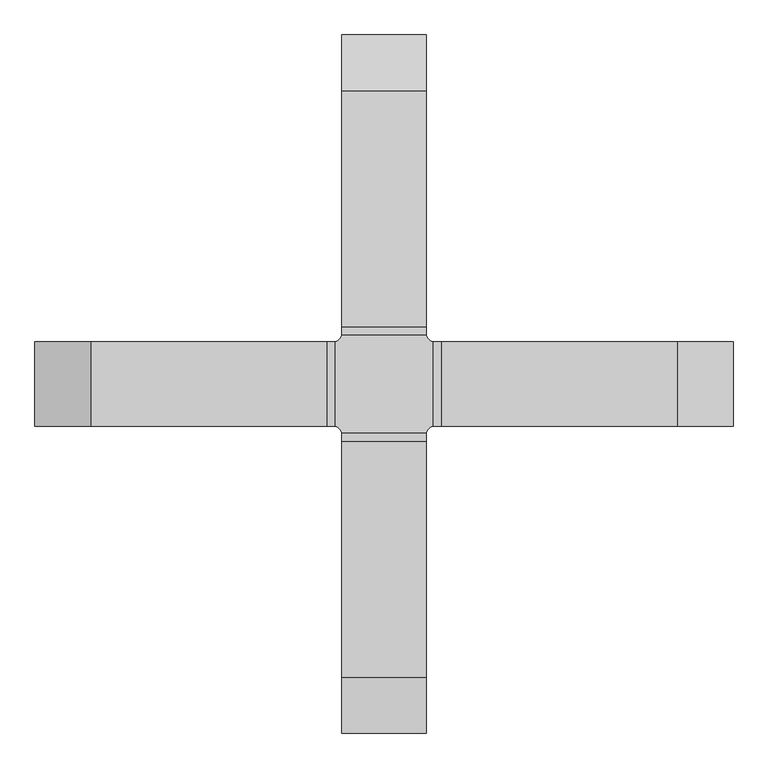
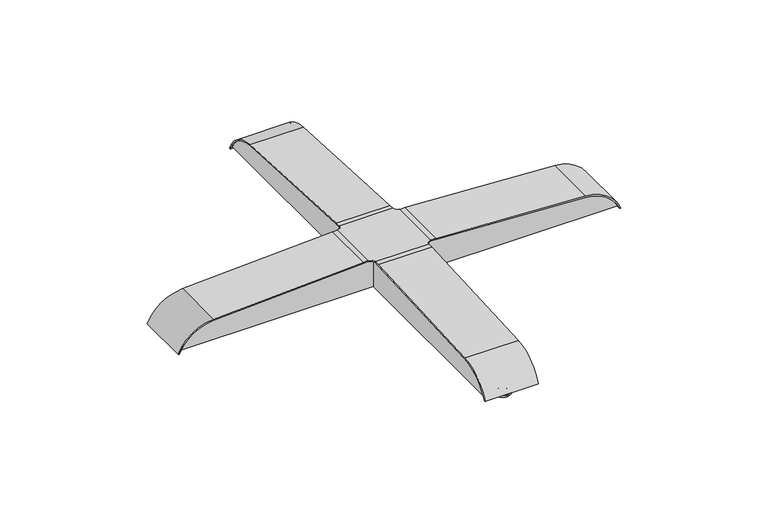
"""IFC4 building model written with IfcOpenShell, lengths in millimetres: furniture geometry, Stance_HC-Rise-Square_ Dining_Table : RTAH-4242-U."""

from ifc_helpers import new_model, si_unit, point, frame, origin, place, context, project, spatial, polyline, circle_curve, ellipse_curve, trimmed, source, transform, mapped, element, save
from ifc_brep_helpers import plane_surface, cylinder_surface, revolved_surface, advanced_brep


def furniture_16707d11(model_context):
    return source(origin(), model_context, "Body", "AdvancedBrep", [
        advanced_brep(
        [(0.0, -464.058, 39.7002), (0.0, -459.9345457, 39.7002), (0.0, -468.1814543, 39.7002), (0.0, -459.9345457, 14.7574), (0.0, -468.1814543, 14.7574), (0.0, -456.0189, 14.7574), (0.0, -472.0971, 14.7574), (0.0, -456.0189, 10.2849279), (0.0, -472.0971, 10.2849279), (0.0, -482.0101589, 3.5984853), (0.0, -446.1058411, 3.5984853), (0.0, -446.1058411, 0.0), (0.0, -482.0101589, 0.0), (0.0, -464.058, 0.0)],
        [
            (0, 1),
            (1, 2, circle_curve(frame((0.0, -464.058, 39.7002), z_axis=(0.0, 0.0, 1.0), x_axis=(0.0, 1.0, 0.0)), 4.1234543)),
            (2, 0),
            (2, 1, circle_curve(frame((0.0, -464.058, 39.7002), z_axis=(0.0, 0.0, 1.0), x_axis=(0.0, 1.0, 0.0)), 4.1234543)),
            (1, 3),
            (3, 4, circle_curve(frame((0.0, -464.058, 14.7574), z_axis=(0.0, 0.0, 1.0), x_axis=(0.0, 1.0, 0.0)), 4.1234543)),
            (4, 2),
            (4, 3, circle_curve(frame((0.0, -464.058, 14.7574), z_axis=(0.0, 0.0, 1.0), x_axis=(0.0, 1.0, 0.0)), 4.1234543)),
            (3, 5),
            (5, 6, circle_curve(frame((0.0, -464.058, 14.7574), z_axis=(0.0, 0.0, 1.0), x_axis=(0.0, 1.0, 0.0)), 8.0391)),
            (6, 4),
            (6, 5, circle_curve(frame((0.0, -464.058, 14.7574), z_axis=(0.0, 0.0, 1.0), x_axis=(0.0, 1.0, 0.0)), 8.0391)),
            (5, 7),
            (7, 8, circle_curve(frame((0.0, -464.058, 10.2849279), z_axis=(0.0, 0.0, 1.0), x_axis=(0.0, 1.0, 0.0)), 8.0391)),
            (8, 6),
            (8, 7, circle_curve(frame((0.0, -464.058, 10.2849279), z_axis=(0.0, 0.0, 1.0), x_axis=(0.0, 1.0, 0.0)), 8.0391)),
            (9, 10, circle_curve(frame((0.0, -464.058, 3.5984853), z_axis=(0.0, 0.0, -1.0), x_axis=(0.0, 1.0, 0.0)), 17.9521589)),
            (10, 11),
            (11, 12, circle_curve(frame((0.0, -464.058, 0.0), z_axis=(0.0, 0.0, 1.0), x_axis=(0.0, 1.0, 0.0)), 17.9521589)),
            (12, 9),
            (10, 9, circle_curve(frame((0.0, -464.058, 3.5984853), z_axis=(0.0, 0.0, -1.0), x_axis=(0.0, 1.0, 0.0)), 17.9521589)),
            (12, 11, circle_curve(frame((0.0, -464.058, 0.0), z_axis=(0.0, 0.0, 1.0), x_axis=(0.0, 1.0, 0.0)), 17.9521589)),
            (11, 13),
            (13, 12),
            (7, 10, circle_curve(frame((0.0, -446.538795, 13.6481832), z_axis=(1.0, 0.0, 0.0), x_axis=(0.0, 1.0, 0.0)), 10.0590197)),
            (9, 8, circle_curve(frame((0.0, -481.577205, 13.6481832), z_axis=(1.0, 0.0, 0.0), x_axis=(0.0, -1.0, 0.0)), 10.0590197)),
        ],
        [
            plane_surface(frame((0.0, -464.058, 39.7002), z_axis=(0.0, 0.0, 1.0), x_axis=(0.0, 1.0, 0.0))),
            cylinder_surface(frame((0.0, -464.058, 39.7002), z_axis=(0.0, 0.0, 1.0), x_axis=(0.0, 1.0, 0.0)), 4.1234543),
            plane_surface(frame((0.0, -464.058, 14.7574), z_axis=(0.0, 0.0, 1.0), x_axis=(0.0, 1.0, 0.0))),
            cylinder_surface(frame((0.0, -464.058, 39.7002), z_axis=(0.0, 0.0, 1.0), x_axis=(0.0, 1.0, 0.0)), 8.0391),
            cylinder_surface(frame((0.0, -464.058, 39.7002), z_axis=(0.0, 0.0, 1.0), x_axis=(0.0, 1.0, 0.0)), 17.9521589),
            plane_surface(frame((0.0, -464.058, 0.0), z_axis=(0.0, 0.0, -1.0), x_axis=(0.0, 1.0, 0.0))),
            revolved_surface(trimmed(ellipse_curve(frame((0.0, -446.538795, 13.6481832), z_axis=(-1.0, 0.0, 0.0), x_axis=(0.0, 1.0, 0.0)), 10.0590197, 10.0590197), [point((0.0, -446.1058411, 3.5984853))], [point((0.0, -456.0189, 10.2849279))], True, "CARTESIAN"), (0.0, -464.058, 39.7002), (0.0, 0.0, 1.0)),
        ],
        [
            (0, [[1, 2, 3]]),
            (0, [[-3, 4, -1]]),
            (1, [[-2, 5, 6, 7]]),
            (1, [[-4, -7, 8, -5]]),
            (2, [[-6, 9, 10, 11]]),
            (2, [[-8, -11, 12, -9]]),
            (3, [[-10, 13, 14, 15]]),
            (3, [[-12, -15, 16, -13]]),
            (4, [[17, 18, 19, 20]]),
            (4, [[21, -20, 22, -18]]),
            (5, [[-19, 23, 24]]),
            (5, [[-22, -24, -23]]),
            (6, [[-14, 25, -17, 26]]),
            (6, [[-16, -26, -21, -25]]),
        ],
    ),
        advanced_brep(
        [(0.0, 468.1814543, 39.7002), (0.0, 459.9345457, 39.7002), (0.0, 464.058, 39.7002), (0.0, 468.1814543, 14.7574), (0.0, 459.9345457, 14.7574), (0.0, 472.0971, 14.7574), (0.0, 456.0189, 14.7574), (0.0, 472.0971, 10.2849279), (0.0, 456.0189, 10.2849279), (0.0, 482.0101589, 0.0), (0.0, 446.1058411, 0.0), (0.0, 446.1058411, 3.5984853), (0.0, 482.0101589, 3.5984853), (0.0, 464.058, 0.0)],
        [
            (0, 1, circle_curve(frame((0.0, 464.058, 39.7002), z_axis=(0.0, 0.0, 1.0), x_axis=(0.0, -1.0, 0.0)), 4.1234543)),
            (1, 2),
            (2, 0),
            (1, 0, circle_curve(frame((0.0, 464.058, 39.7002), z_axis=(0.0, 0.0, 1.0), x_axis=(0.0, -1.0, 0.0)), 4.1234543)),
            (3, 4, circle_curve(frame((0.0, 464.058, 14.7574), z_axis=(0.0, 0.0, 1.0), x_axis=(0.0, -1.0, 0.0)), 4.1234543)),
            (4, 1),
            (0, 3),
            (4, 3, circle_curve(frame((0.0, 464.058, 14.7574), z_axis=(0.0, 0.0, 1.0), x_axis=(0.0, -1.0, 0.0)), 4.1234543)),
            (5, 6, circle_curve(frame((0.0, 464.058, 14.7574), z_axis=(0.0, 0.0, 1.0), x_axis=(0.0, -1.0, 0.0)), 8.0391)),
            (6, 4),
            (3, 5),
            (6, 5, circle_curve(frame((0.0, 464.058, 14.7574), z_axis=(0.0, 0.0, 1.0), x_axis=(0.0, -1.0, 0.0)), 8.0391)),
            (7, 8, circle_curve(frame((0.0, 464.058, 10.2849279), z_axis=(0.0, 0.0, 1.0), x_axis=(0.0, -1.0, 0.0)), 8.0391)),
            (8, 6),
            (5, 7),
            (8, 7, circle_curve(frame((0.0, 464.058, 10.2849279), z_axis=(0.0, 0.0, 1.0), x_axis=(0.0, -1.0, 0.0)), 8.0391)),
            (9, 10, circle_curve(frame((0.0, 464.058, 0.0), z_axis=(0.0, 0.0, 1.0), x_axis=(0.0, -1.0, 0.0)), 17.9521589)),
            (10, 11),
            (11, 12, circle_curve(frame((0.0, 464.058, 3.5984853), z_axis=(0.0, 0.0, -1.0), x_axis=(0.0, -1.0, 0.0)), 17.9521589)),
            (12, 9),
            (10, 9, circle_curve(frame((0.0, 464.058, 0.0), z_axis=(0.0, 0.0, 1.0), x_axis=(0.0, -1.0, 0.0)), 17.9521589)),
            (12, 11, circle_curve(frame((0.0, 464.058, 3.5984853), z_axis=(0.0, 0.0, -1.0), x_axis=(0.0, -1.0, 0.0)), 17.9521589)),
            (13, 10),
            (9, 13),
            (11, 8, circle_curve(frame((0.0, 446.538795, 13.6481832), z_axis=(1.0, 0.0, 0.0), x_axis=(0.0, -1.0, 0.0)), 10.0590197)),
            (7, 12, circle_curve(frame((0.0, 481.577205, 13.6481832), z_axis=(1.0, 0.0, 0.0), x_axis=(0.0, 1.0, 0.0)), 10.0590197)),
        ],
        [
            plane_surface(frame((0.0, 464.058, 39.7002), z_axis=(0.0, 0.0, 1.0), x_axis=(0.0, -1.0, 0.0))),
            cylinder_surface(frame((0.0, 464.058, 39.7002), z_axis=(0.0, 0.0, -1.0), x_axis=(0.0, -1.0, 0.0)), 4.1234543),
            plane_surface(frame((0.0, 464.058, 14.7574), z_axis=(0.0, 0.0, 1.0), x_axis=(0.0, -1.0, 0.0))),
            cylinder_surface(frame((0.0, 464.058, 39.7002), z_axis=(0.0, 0.0, -1.0), x_axis=(0.0, -1.0, 0.0)), 8.0391),
            cylinder_surface(frame((0.0, 464.058, 39.7002), z_axis=(0.0, 0.0, -1.0), x_axis=(0.0, -1.0, 0.0)), 17.9521589),
            plane_surface(frame((0.0, 464.058, 0.0), z_axis=(0.0, 0.0, -1.0), x_axis=(0.0, -1.0, 0.0))),
            revolved_surface(trimmed(ellipse_curve(frame((0.0, 446.538795, 13.6481832), z_axis=(-1.0, 0.0, 0.0), x_axis=(0.0, -1.0, 0.0)), 10.0590197, 10.0590197), [point((0.0, 456.0189, 10.2849279))], [point((0.0, 446.1058411, 3.5984853))], True, "CARTESIAN"), (0.0, 464.058, 39.7002), (0.0, 0.0, -1.0)),
        ],
        [
            (0, [[1, 2, 3]]),
            (0, [[4, -3, -2]]),
            (1, [[5, 6, -1, 7]]),
            (1, [[8, -7, -4, -6]]),
            (2, [[9, 10, -5, 11]]),
            (2, [[12, -11, -8, -10]]),
            (3, [[13, 14, -9, 15]]),
            (3, [[16, -15, -12, -14]]),
            (4, [[17, 18, 19, 20]]),
            (4, [[21, -20, 22, -18]]),
            (5, [[23, -17, 24]]),
            (5, [[-24, -21, -23]]),
            (6, [[-19, 25, -13, 26]]),
            (6, [[-22, -26, -16, -25]]),
        ],
    ),
        advanced_brep(
        [(60.325, 420.6378786, 74.5825817), (60.325, 498.1978983, 20.2927555), (60.325, 500.6635132, 21.3402677), (60.325, 420.7780817, 77.2578166), (60.325, 82.318215, 94.9957465), (60.325, 70.2140123, 95.3127062), (60.325, 70.2140123, 92.6338), (60.325, 82.1780119, 92.3205116), (60.325, -420.6378786, 74.5825817), (60.325, -82.1780119, 92.3205116), (60.325, -70.2140123, 92.6338), (60.325, -70.2140123, 95.3127062), (60.325, -82.318215, 94.9957465), (60.325, -420.7780817, 77.2578166), (60.325, -500.6635132, 21.3402677), (60.325, -498.1978983, 20.2927555), (-60.325, 420.6378786, 74.5825817), (-60.325, 82.1780119, 92.3205116), (-60.325, 70.2140123, 92.6338), (-60.325, 70.2140123, 95.3127062), (-60.325, 82.318215, 94.9957465), (-60.325, 420.7780817, 77.2578166), (-60.325, 500.6635132, 21.3402677), (-60.325, 498.1978983, 20.2927555), (-60.325, -420.6378786, 74.5825817), (-60.325, -498.1978983, 20.2927555), (-60.325, -500.6635132, 21.3402677), (-60.325, -420.7780817, 77.2578166), (-60.325, -82.318215, 94.9957465), (-60.325, -70.2140123, 95.3127062), (-60.325, -70.2140123, 92.6338), (-60.325, -82.1780119, 92.3205116), (-70.2648498, -60.6285662, 95.3127062), (-60.639995, -70.2140123, 95.3127062), (60.639995, -70.2140123, 95.3127062), (70.1631748, -60.6516433, 95.3127062), (70.1631748, -60.325, 95.3127062), (70.1631748, 60.325, 95.3127062), (70.1631748, 60.6516433, 95.3127062), (60.639995, 70.2140123, 95.3127062), (-60.639995, 70.2140123, 95.3127062), (-70.2648498, 60.6285662, 95.3127062), (-70.2648498, 60.325, 95.3127062), (-70.2648498, -60.325, 95.3127062), (-70.2648498, 60.6285662, 92.6338), (-60.639995, 70.2140123, 92.6338), (60.639995, 70.2140123, 92.6338), (70.1631748, 60.6516433, 92.6338), (70.1631748, 60.325, 92.6338), (70.1631748, -60.325, 92.6338), (70.1631748, -60.6516433, 92.6338), (60.639995, -70.2140123, 92.6338), (-60.639995, -70.2140123, 92.6338), (-70.2648498, -60.6285662, 92.6338), (-70.2648498, -60.325, 92.6338), (-70.2648498, 60.325, 92.6338), (-420.688716, 60.325, 74.5825817), (-498.2487358, 60.325, 20.2927555), (-500.7143507, 60.325, 21.3402677), (-420.8289192, 60.325, 77.2578166), (-82.3690525, 60.325, 94.9957465), (-82.2288494, 60.325, 92.3205116), (420.5870411, 60.325, 74.5825817), (82.1271744, 60.325, 92.3205116), (82.2673775, 60.325, 94.9957465), (420.7272442, 60.325, 77.2578166), (500.6126758, 60.325, 21.3402677), (498.1470609, 60.325, 20.2927555), (-420.688716, -60.325, 74.5825817), (-82.2288494, -60.325, 92.3205116), (-82.3690525, -60.325, 94.9957465), (-420.8289192, -60.325, 77.2578166), (-500.7143507, -60.325, 21.3402677), (-498.2487358, -60.325, 20.2927555), (420.5870411, -60.325, 74.5825817), (498.1470609, -60.325, 20.2927555), (500.6126758, -60.325, 21.3402677), (420.7272442, -60.325, 77.2578166), (82.2673775, -60.325, 94.9957465), (82.1271744, -60.325, 92.3205116)],
        [
            (0, 1, circle_curve(frame((60.325, 415.9616501, -14.6451736), z_axis=(-1.0, 0.0, 0.0), x_axis=(0.0, -1.0, 0.0)), 89.3502066)),
            (1, 2),
            (2, 3, circle_curve(frame((60.325, 415.9616501, -14.6451736), z_axis=(1.0, 0.0, 0.0), x_axis=(0.0, -1.0, 0.0)), 92.0291128)),
            (3, 4),
            (4, 5, circle_curve(frame((60.325, 70.2140123, -135.9662), z_axis=(1.0, 0.0, 0.0), x_axis=(0.0, -1.0, 0.0)), 231.2789063)),
            (5, 6),
            (6, 7, circle_curve(frame((60.325, 70.2140123, -135.9662), z_axis=(-1.0, 0.0, 0.0), x_axis=(0.0, -1.0, 0.0)), 228.6)),
            (7, 0),
            (8, 9),
            (9, 10, circle_curve(frame((60.325, -70.2140123, -135.9662), z_axis=(-1.0, 0.0, 0.0), x_axis=(0.0, 1.0, 0.0)), 228.6)),
            (10, 11),
            (11, 12, circle_curve(frame((60.325, -70.2140123, -135.9662), z_axis=(1.0, 0.0, 0.0), x_axis=(0.0, 1.0, 0.0)), 231.2789063)),
            (12, 13),
            (13, 14, circle_curve(frame((60.325, -415.9616501, -14.6451736), z_axis=(1.0, 0.0, 0.0), x_axis=(0.0, 1.0, 0.0)), 92.0291128)),
            (14, 15),
            (15, 8, circle_curve(frame((60.325, -415.9616501, -14.6451736), z_axis=(-1.0, 0.0, 0.0), x_axis=(0.0, 1.0, 0.0)), 89.3502066)),
            (16, 17),
            (17, 18, circle_curve(frame((-60.325, 70.2140123, -135.9662), z_axis=(1.0, 0.0, 0.0), x_axis=(0.0, -1.0, 0.0)), 228.6)),
            (18, 19),
            (19, 20, circle_curve(frame((-60.325, 70.2140123, -135.9662), z_axis=(-1.0, 0.0, 0.0), x_axis=(0.0, -1.0, 0.0)), 231.2789063)),
            (20, 21),
            (21, 22, circle_curve(frame((-60.325, 415.9616501, -14.6451736), z_axis=(-1.0, 0.0, 0.0), x_axis=(0.0, -1.0, 0.0)), 92.0291128)),
            (22, 23),
            (23, 16, circle_curve(frame((-60.325, 415.9616501, -14.6451736), z_axis=(1.0, 0.0, 0.0), x_axis=(0.0, -1.0, 0.0)), 89.3502066)),
            (24, 25, circle_curve(frame((-60.325, -415.9616501, -14.6451736), z_axis=(1.0, 0.0, 0.0), x_axis=(0.0, 1.0, 0.0)), 89.3502066)),
            (25, 26),
            (26, 27, circle_curve(frame((-60.325, -415.9616501, -14.6451736), z_axis=(-1.0, 0.0, 0.0), x_axis=(0.0, 1.0, 0.0)), 92.0291128)),
            (27, 28),
            (28, 29, circle_curve(frame((-60.325, -70.2140123, -135.9662), z_axis=(-1.0, 0.0, 0.0), x_axis=(0.0, 1.0, 0.0)), 231.2789063)),
            (29, 30),
            (30, 31, circle_curve(frame((-60.325, -70.2140123, -135.9662), z_axis=(1.0, 0.0, 0.0), x_axis=(0.0, 1.0, 0.0)), 228.6)),
            (31, 24),
            (7, 17),
            (16, 0),
            (23, 1),
            (22, 2),
            (32, 33, circle_curve(frame((-73.025, -73.025, 95.3127062), z_axis=(0.0, 0.0, -1.0), x_axis=(1.0, 0.0, 0.0)), 12.7)),
            (33, 29),
            (29, 11),
            (11, 34),
            (34, 35, circle_curve(frame((73.025, -73.025, 95.3127062), z_axis=(0.0, 0.0, -1.0), x_axis=(1.0, 0.0, 0.0)), 12.7)),
            (35, 36),
            (36, 37),
            (37, 38),
            (38, 39, circle_curve(frame((73.025, 73.025, 95.3127062), z_axis=(0.0, 0.0, -1.0), x_axis=(1.0, 0.0, 0.0)), 12.7)),
            (39, 5),
            (5, 19),
            (19, 40),
            (40, 41, circle_curve(frame((-73.025, 73.025, 95.3127062), z_axis=(0.0, 0.0, -1.0), x_axis=(1.0, 0.0, 0.0)), 12.7)),
            (41, 42),
            (42, 43),
            (43, 32),
            (44, 45, circle_curve(frame((-73.025, 73.025, 92.6338), z_axis=(0.0, 0.0, 1.0), x_axis=(1.0, 0.0, 0.0)), 12.7)),
            (45, 18),
            (18, 6),
            (6, 46),
            (46, 47, circle_curve(frame((73.025, 73.025, 92.6338), z_axis=(0.0, 0.0, 1.0), x_axis=(1.0, 0.0, 0.0)), 12.7)),
            (47, 48),
            (48, 49),
            (49, 50),
            (50, 51, circle_curve(frame((73.025, -73.025, 92.6338), z_axis=(0.0, 0.0, 1.0), x_axis=(1.0, 0.0, 0.0)), 12.7)),
            (51, 10),
            (10, 30),
            (30, 52),
            (52, 53, circle_curve(frame((-73.025, -73.025, 92.6338), z_axis=(0.0, 0.0, 1.0), x_axis=(1.0, 0.0, 0.0)), 12.7)),
            (53, 54),
            (54, 55),
            (55, 44),
            (32, 53),
            (52, 33),
            (34, 51),
            (50, 35),
            (38, 47),
            (46, 39),
            (40, 45),
            (44, 41),
            (21, 3),
            (20, 4),
            (8, 24),
            (31, 9),
            (28, 12),
            (27, 13),
            (26, 14),
            (25, 15),
            (43, 54),
            (55, 42),
            (49, 36),
            (37, 48),
            (56, 57, circle_curve(frame((-416.0124875, 60.325, -14.6451736), z_axis=(0.0, -1.0, 0.0), x_axis=(1.0, 0.0, 0.0)), 89.3502066)),
            (57, 58),
            (58, 59, circle_curve(frame((-416.0124875, 60.325, -14.6451736), z_axis=(0.0, 1.0, 0.0), x_axis=(1.0, 0.0, 0.0)), 92.0291128)),
            (59, 60),
            (60, 42, circle_curve(frame((-70.2648498, 60.325, -135.9662), z_axis=(0.0, 1.0, 0.0), x_axis=(1.0, 0.0, 0.0)), 231.2789063)),
            (55, 61, circle_curve(frame((-70.2648498, 60.325, -135.9662), z_axis=(0.0, -1.0, 0.0), x_axis=(1.0, 0.0, 0.0)), 228.6)),
            (61, 56),
            (62, 63),
            (63, 48, circle_curve(frame((70.1631748, 60.325, -135.9662), z_axis=(0.0, -1.0, 0.0), x_axis=(-1.0, 0.0, 0.0)), 228.6)),
            (37, 64, circle_curve(frame((70.1631748, 60.325, -135.9662), z_axis=(0.0, 1.0, 0.0), x_axis=(-1.0, 0.0, 0.0)), 231.2789063)),
            (64, 65),
            (65, 66, circle_curve(frame((415.9108126, 60.325, -14.6451736), z_axis=(0.0, 1.0, 0.0), x_axis=(-1.0, 0.0, 0.0)), 92.0291128)),
            (66, 67),
            (67, 62, circle_curve(frame((415.9108126, 60.325, -14.6451736), z_axis=(0.0, -1.0, 0.0), x_axis=(-1.0, 0.0, 0.0)), 89.3502066)),
            (68, 69),
            (69, 54, circle_curve(frame((-70.2648498, -60.325, -135.9662), z_axis=(0.0, 1.0, 0.0), x_axis=(1.0, 0.0, 0.0)), 228.6)),
            (43, 70, circle_curve(frame((-70.2648498, -60.325, -135.9662), z_axis=(0.0, -1.0, 0.0), x_axis=(1.0, 0.0, 0.0)), 231.2789063)),
            (70, 71),
            (71, 72, circle_curve(frame((-416.0124875, -60.325, -14.6451736), z_axis=(0.0, -1.0, 0.0), x_axis=(1.0, 0.0, 0.0)), 92.0291128)),
            (72, 73),
            (73, 68, circle_curve(frame((-416.0124875, -60.325, -14.6451736), z_axis=(0.0, 1.0, 0.0), x_axis=(1.0, 0.0, 0.0)), 89.3502066)),
            (74, 75, circle_curve(frame((415.9108126, -60.325, -14.6451736), z_axis=(0.0, 1.0, 0.0), x_axis=(-1.0, 0.0, 0.0)), 89.3502066)),
            (75, 76),
            (76, 77, circle_curve(frame((415.9108126, -60.325, -14.6451736), z_axis=(0.0, -1.0, 0.0), x_axis=(-1.0, 0.0, 0.0)), 92.0291128)),
            (77, 78),
            (78, 36, circle_curve(frame((70.1631748, -60.325, -135.9662), z_axis=(0.0, -1.0, 0.0), x_axis=(-1.0, 0.0, 0.0)), 231.2789063)),
            (49, 79, circle_curve(frame((70.1631748, -60.325, -135.9662), z_axis=(0.0, 1.0, 0.0), x_axis=(-1.0, 0.0, 0.0)), 228.6)),
            (79, 74),
            (56, 68),
            (73, 57),
            (72, 58),
            (71, 59),
            (70, 60),
            (69, 61),
            (62, 74),
            (79, 63),
            (78, 64),
            (77, 65),
            (76, 66),
            (75, 67),
        ],
        [
            plane_surface(frame((60.325, 326.6114435, -14.6451736), z_axis=(1.0, 0.0, 0.0), x_axis=(0.0, 0.0, 1.0))),
            plane_surface(frame((-60.325, 326.6114435, -14.6451736), z_axis=(-1.0, 0.0, 0.0), x_axis=(0.0, 0.0, -1.0))),
            plane_surface(frame((60.325, 82.1780119, 92.3205116), z_axis=(0.0, -0.05233595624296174, -0.998629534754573), x_axis=(-1.0, 0.0, 0.0))),
            revolved_surface(polyline([(-60.325, 326.61144349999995, -14.6451736), (60.325, 326.61144349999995, -14.6451736)]), (-60.325, 415.9616501, -14.6451736), (-1.0, 0.0, 0.0)),
            plane_surface(frame((60.325, 498.1978983, 20.2927555), z_axis=(0.0, 0.3910223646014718, -0.9203811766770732), x_axis=(-1.0, 0.0, 0.0))),
            plane_surface(frame((-70.2648498, -60.325, 95.3127062), z_axis=(0.0, 0.0, 1.0), x_axis=(0.0, -1.0, 0.0))),
            plane_surface(frame((-70.2648498, -60.325, 92.6338), z_axis=(0.0, 0.0, -1.0), x_axis=(0.0, 1.0, 0.0))),
            revolved_surface(polyline([(-60.325, -73.025, 92.6338), (-60.325, -73.025, 95.3127062)]), (-73.025, -73.025, 92.6338), (0.0, 0.0, -1.0)),
            revolved_surface(polyline([(85.72500000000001, -73.025, 92.6338), (85.72500000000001, -73.025, 95.3127062)]), (73.025, -73.025, 92.6338), (0.0, 0.0, -1.0)),
            revolved_surface(polyline([(85.72500000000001, 73.025, 92.6338), (85.72500000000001, 73.025, 95.3127062)]), (73.025, 73.025, 92.6338), (0.0, 0.0, -1.0)),
            revolved_surface(polyline([(-60.325, 73.025, 92.6338), (-60.325, 73.025, 95.3127062)]), (-73.025, 73.025, 92.6338), (0.0, 0.0, -1.0)),
            cylinder_surface(frame((-60.325, 415.9616501, -14.6451736), z_axis=(1.0, 0.0, 0.0), x_axis=(0.0, -1.0, 0.0)), 92.0291128),
            plane_surface(frame((60.325, 420.7780817, 77.2578166), z_axis=(0.0, 0.05233595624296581, 0.9986295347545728), x_axis=(-1.0, 0.0, 0.0))),
            cylinder_surface(frame((-60.325, 70.2140123, -135.9662), z_axis=(1.0, 0.0, 0.0), x_axis=(0.0, -1.0, 0.0)), 231.2789063),
            revolved_surface(polyline([(-60.325, -158.3859877, -135.9662), (60.325, -158.3859877, -135.9662)]), (-60.325, 70.2140123, -135.9662), (-1.0, 0.0, 0.0)),
            plane_surface(frame((60.325, -420.6378786, 74.5825817), z_axis=(0.0, 0.05233595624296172, -0.998629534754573), x_axis=(-1.0, 0.0, 0.0))),
            revolved_surface(polyline([(-60.325, 158.3859877, -135.9662), (60.325, 158.3859877, -135.9662)]), (0.0, -70.2140123, -135.9662), (-1.0, 0.0, 0.0)),
            cylinder_surface(frame((0.0, -70.2140123, -135.9662), z_axis=(1.0, 0.0, 0.0), x_axis=(0.0, 1.0, 0.0)), 231.2789063),
            plane_surface(frame((60.325, -82.318215, 94.9957465), z_axis=(0.0, -0.05233595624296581, 0.9986295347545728), x_axis=(-1.0, 0.0, 0.0))),
            cylinder_surface(frame((0.0, -415.9616501, -14.6451736), z_axis=(1.0, 0.0, 0.0), x_axis=(0.0, 1.0, 0.0)), 92.0291128),
            plane_surface(frame((60.325, -500.6635132, 21.3402677), z_axis=(0.0, -0.3910223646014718, -0.9203811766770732), x_axis=(-1.0, 0.0, 0.0))),
            revolved_surface(polyline([(-60.325, -326.61144349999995, -14.6451736), (60.325, -326.61144349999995, -14.6451736)]), (0.0, -415.9616501, -14.6451736), (-1.0, 0.0, 0.0)),
            plane_surface(frame((-70.2648498, 60.6285662, 95.3127062), z_axis=(-1.0, 0.0, 0.0), x_axis=(0.0, 0.0, -1.0))),
            plane_surface(frame((-60.639995, -70.2140123, 95.3127062), z_axis=(0.0, -1.0, 0.0), x_axis=(0.0, 0.0, -1.0))),
            plane_surface(frame((70.1631748, -60.6516433, 95.3127062), z_axis=(1.0, 0.0, 0.0), x_axis=(0.0, 0.0, -1.0))),
            plane_surface(frame((60.639995, 70.2140123, 95.3127062), z_axis=(0.0, 1.0, 0.0), x_axis=(0.0, 0.0, -1.0))),
            plane_surface(frame((-326.662281, 60.325, -14.6451736), z_axis=(0.0, 1.0, 0.0), x_axis=(0.0, 0.0, 1.0))),
            plane_surface(frame((-326.662281, -60.325, -14.6451736), z_axis=(0.0, -1.0, 0.0), x_axis=(0.0, 0.0, -1.0))),
            revolved_surface(polyline([(-326.66228090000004, -60.325, -14.6451736), (-326.66228090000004, 60.325, -14.6451736)]), (-416.0124875, -60.325, -14.6451736), (0.0, -1.0, 0.0)),
            plane_surface(frame((-498.2487358, 60.325, 20.2927555), z_axis=(-0.3910223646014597, 0.0, -0.9203811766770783), x_axis=(0.0, -1.0, 0.0))),
            cylinder_surface(frame((-416.0124875, -60.325, -14.6451736), z_axis=(0.0, 1.0, 0.0), x_axis=(1.0, 0.0, 0.0)), 92.0291128),
            plane_surface(frame((-420.8289192, 60.325, 77.2578166), z_axis=(-0.05233595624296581, 0.0, 0.9986295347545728), x_axis=(0.0, -1.0, 0.0))),
            cylinder_surface(frame((-70.2648498, -60.325, -135.9662), z_axis=(0.0, 1.0, 0.0), x_axis=(1.0, 0.0, 0.0)), 231.2789063),
            revolved_surface(polyline([(158.3351502, -60.325, -135.9662), (158.3351502, 60.325, -135.9662)]), (-70.2648498, -60.325, -135.9662), (0.0, -1.0, 0.0)),
            plane_surface(frame((-82.2288494, 60.325, 92.3205116), z_axis=(0.05233595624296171, 0.0, -0.998629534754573), x_axis=(0.0, -1.0, 0.0))),
            plane_surface(frame((420.5870411, 60.325, 74.5825817), z_axis=(-0.0523359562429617, 0.0, -0.998629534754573), x_axis=(0.0, -1.0, 0.0))),
            revolved_surface(polyline([(-158.4368252, -60.325, -135.9662), (-158.4368252, 60.325, -135.9662)]), (70.1631748, 0.0, -135.9662), (0.0, -1.0, 0.0)),
            cylinder_surface(frame((70.1631748, 0.0, -135.9662), z_axis=(0.0, 1.0, 0.0), x_axis=(-1.0, 0.0, 0.0)), 231.2789063),
            plane_surface(frame((82.2673775, 60.325, 94.9957465), z_axis=(0.05233595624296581, 0.0, 0.9986295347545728), x_axis=(0.0, -1.0, 0.0))),
            cylinder_surface(frame((415.9108126, 0.0, -14.6451736), z_axis=(0.0, 1.0, 0.0), x_axis=(-1.0, 0.0, 0.0)), 92.0291128),
            plane_surface(frame((500.6126758, 60.325, 21.3402677), z_axis=(0.3910223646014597, 0.0, -0.9203811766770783), x_axis=(0.0, -1.0, 0.0))),
            revolved_surface(polyline([(326.560606, -60.325, -14.6451736), (326.560606, 60.325, -14.6451736)]), (415.9108126, 0.0, -14.6451736), (0.0, -1.0, 0.0)),
        ],
        [
            (0, [[1, 2, 3, 4, 5, 6, 7, 8]]),
            (0, [[9, 10, 11, 12, 13, 14, 15, 16]]),
            (1, [[17, 18, 19, 20, 21, 22, 23, 24]]),
            (1, [[25, 26, 27, 28, 29, 30, 31, 32]]),
            (2, [[-8, 33, -17, 34]]),
            (3, [[-1, -34, -24, 35]]),
            (4, [[-2, -35, -23, 36]]),
            (5, [[37, 38, 39, 40, 41, 42, 43, 44, 45, 46, 47, 48, 49, 50, 51, 52]]),
            (6, [[53, 54, 55, 56, 57, 58, 59, 60, 61, 62, 63, 64, 65, 66, 67, 68]]),
            (7, [[-37, 69, -65, 70]]),
            (8, [[-41, 71, -61, 72]]),
            (9, [[-45, 73, -57, 74]]),
            (10, [[-49, 75, -53, 76]]),
            (11, [[-3, -36, -22, 77]]),
            (12, [[-4, -77, -21, 78]]),
            (13, [[-5, -78, -20, -47]]),
            (14, [[-7, -55, -18, -33]]),
            (15, [[-9, 79, -32, 80]]),
            (16, [[-10, -80, -31, -63]]),
            (17, [[-12, -39, -29, 81]]),
            (18, [[-13, -81, -28, 82]]),
            (19, [[-14, -82, -27, 83]]),
            (20, [[-15, -83, -26, 84]]),
            (21, [[-16, -84, -25, -79]]),
            (22, [[-69, -52, 85, -66]]),
            (22, [[-76, -68, 86, -50]]),
            (23, [[-70, -64, -30, -38]]),
            (23, [[-71, -40, -11, -62]]),
            (24, [[-72, -60, 87, -42]]),
            (24, [[-73, -44, 88, -58]]),
            (25, [[-74, -56, -6, -46]]),
            (25, [[-75, -48, -19, -54]]),
            (26, [[89, 90, 91, 92, 93, -86, 94, 95]]),
            (26, [[96, 97, -88, 98, 99, 100, 101, 102]]),
            (27, [[103, 104, -85, 105, 106, 107, 108, 109]]),
            (27, [[110, 111, 112, 113, 114, -87, 115, 116]]),
            (28, [[-89, 117, -109, 118]]),
            (29, [[-90, -118, -108, 119]]),
            (30, [[-91, -119, -107, 120]]),
            (31, [[-92, -120, -106, 121]]),
            (32, [[-93, -121, -105, -51]]),
            (33, [[-94, -67, -104, 122]]),
            (34, [[-95, -122, -103, -117]]),
            (35, [[-96, 123, -116, 124]]),
            (36, [[-97, -124, -115, -59]]),
            (37, [[-98, -43, -114, 125]]),
            (38, [[-99, -125, -113, 126]]),
            (39, [[-100, -126, -112, 127]]),
            (40, [[-101, -127, -111, 128]]),
            (41, [[-102, -128, -110, -123]]),
        ],
    ),
        advanced_brep(
        [(54.4710938, -493.593262, 28.6377062), (38.1, -493.593262, 28.6377062), (38.1, -493.593262, 25.9588), (57.15, -493.593262, 25.9588), (57.15, -493.593262, 29.590471), (54.4710938, -493.593262, 29.590471), (57.15, -57.15, 25.9588), (57.15, -57.15, 92.6338), (57.15, -70.2140123, 92.6338), (57.15, -82.1780119, 92.3205116), (57.15, -420.6378786, 74.5825817), (54.4710938, -54.4710937, 28.6377062), (54.4710938, -420.6378786, 74.5825817), (54.4710938, -82.1780119, 92.3205116), (54.4710938, -70.2140123, 92.6338), (54.4710938, -54.4710937, 92.6338), (493.6110748, -54.4710938, 28.6377062), (493.6110748, -38.1, 28.6377062), (38.1, -38.1, 28.6377062), (38.1, -38.1, 25.9588), (493.6110748, -38.1, 25.9588), (493.6110748, -57.15, 25.9588), (493.6110748, -54.4710938, 29.5591956), (493.6110748, -57.15, 29.5591956), (420.6378786, -57.15, 74.5825817), (82.1780119, -57.15, 92.3205116), (70.2140123, -57.15, 92.6338), (70.2140123, -54.4710937, 92.6338), (82.1780119, -54.4710937, 92.3205116), (420.6378786, -54.4710938, 74.5825817)],
        [
            (0, 1),
            (1, 2),
            (2, 3),
            (3, 4),
            (4, 5),
            (5, 0),
            (3, 6),
            (6, 7),
            (7, 8),
            (8, 9, circle_curve(frame((57.15, -70.2140123, -135.9662), z_axis=(1.0, 0.0, 0.0), x_axis=(0.0, 1.0, 0.0)), 228.6)),
            (9, 10),
            (10, 4, circle_curve(frame((57.15, -415.9616501, -14.6451736), z_axis=(1.0, 0.0, 0.0), x_axis=(0.0, 1.0, 0.0)), 89.3502066)),
            (11, 0),
            (5, 12, circle_curve(frame((54.4710938, -415.9616501, -14.6451736), z_axis=(-1.0, 0.0, 0.0), x_axis=(0.0, 1.0, 0.0)), 89.3502066)),
            (12, 13),
            (13, 14, circle_curve(frame((54.4710938, -70.2140123, -135.9662), z_axis=(-1.0, 0.0, 0.0), x_axis=(0.0, 1.0, 0.0)), 228.6)),
            (14, 15),
            (15, 11),
            (11, 16),
            (16, 17),
            (17, 18),
            (18, 1),
            (18, 19),
            (19, 2),
            (19, 20),
            (20, 21),
            (21, 6),
            (16, 22),
            (22, 23),
            (23, 21),
            (20, 17),
            (23, 24, circle_curve(frame((415.9616501, -57.15, -14.6451736), z_axis=(0.0, -1.0, 0.0), x_axis=(-1.0, 0.0, 0.0)), 89.3502066)),
            (24, 25),
            (25, 26, circle_curve(frame((70.2140123, -57.15, -135.9662), z_axis=(0.0, -1.0, 0.0), x_axis=(-1.0, 0.0, 0.0)), 228.6)),
            (26, 7),
            (15, 27),
            (27, 28, circle_curve(frame((70.2140123, -54.4710937, -135.9662), z_axis=(0.0, 1.0, 0.0), x_axis=(-1.0, 0.0, 0.0)), 228.6)),
            (28, 29),
            (29, 22, circle_curve(frame((415.9616501, -54.4710938, -14.6451736), z_axis=(0.0, 1.0, 0.0), x_axis=(-1.0, 0.0, 0.0)), 89.3502066)),
            (8, 14),
            (13, 9),
            (26, 27),
            (10, 12),
            (25, 28),
            (24, 29),
        ],
        [
            plane_surface(frame((57.15, -493.593262, 0.0), z_axis=(0.0, -1.0, 0.0), x_axis=(0.0, 0.0, 1.0))),
            plane_surface(frame((57.15, -493.593262, 25.9588), z_axis=(1.0, 0.0, 0.0), x_axis=(0.0, 1.0, 0.0))),
            plane_surface(frame((54.4710938, -493.593262, 95.01505), z_axis=(-1.0, 0.0, 0.0), x_axis=(0.0, 1.0, 0.0))),
            plane_surface(frame((54.4710938, -493.593262, 28.6377062), z_axis=(0.0, 0.0, 1.0), x_axis=(0.0, 1.0, 0.0))),
            plane_surface(frame((38.1, -493.593262, 28.6377062), z_axis=(-1.0, 0.0, 0.0), x_axis=(0.0, 1.0, 0.0))),
            plane_surface(frame((38.1, -493.593262, 25.9588), z_axis=(0.0, 0.0, -1.0), x_axis=(0.0, 1.0, 0.0))),
            plane_surface(frame((493.6110748, -57.15, 0.0), z_axis=(1.0, 0.0, 0.0), x_axis=(0.0, 0.0, 1.0))),
            plane_surface(frame((57.15, -57.15, 25.9588), z_axis=(0.0, -1.0, 0.0), x_axis=(1.0, 0.0, 0.0))),
            plane_surface(frame((54.4710938, -54.4710937, 95.01505), z_axis=(0.0, 1.0, 0.0), x_axis=(1.0, 0.0, 0.0))),
            plane_surface(frame((38.1, -38.1, 28.6377062), z_axis=(0.0, 1.0, 0.0), x_axis=(1.0, 0.0, 0.0))),
            cylinder_surface(frame((101.5819282, -70.2140123, -135.9662), z_axis=(1.0, 0.0, 0.0), x_axis=(0.0, 1.0, 0.0)), 228.6),
            plane_surface(frame((-95.25, 70.2140123, 92.6338), z_axis=(0.0, 0.0, 1.0), x_axis=(1.0, 0.0, 0.0))),
            cylinder_surface(frame((101.5819282, -415.9616501, -14.6451736), z_axis=(1.0, 0.0, 0.0), x_axis=(0.0, 1.0, 0.0)), 89.3502066),
            plane_surface(frame((-95.25, -82.1780119, 92.3205116), z_axis=(0.0, -0.052335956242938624, 0.9986295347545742), x_axis=(1.0, 0.0, 0.0))),
            cylinder_surface(frame((70.2140123, 101.5819282, -135.9662), z_axis=(0.0, 1.0, 0.0), x_axis=(-1.0, 0.0, 0.0)), 228.6),
            plane_surface(frame((82.1780119, -95.25, 92.3205116), z_axis=(0.05233595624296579, 0.0, 0.9986295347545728), x_axis=(0.0, 1.0, 0.0))),
            cylinder_surface(frame((415.9616501, 101.5819282, -14.6451736), z_axis=(0.0, 1.0, 0.0), x_axis=(-1.0, 0.0, 0.0)), 89.3502066),
        ],
        [
            (0, [[1, 2, 3, 4, 5, 6]]),
            (1, [[7, 8, 9, 10, 11, 12, -4]]),
            (2, [[13, -6, 14, 15, 16, 17, 18]]),
            (3, [[-1, -13, 19, 20, 21, 22]]),
            (4, [[-2, -22, 23, 24]]),
            (5, [[-3, -24, 25, 26, 27, -7]]),
            (6, [[-20, 28, 29, 30, -26, 31]]),
            (7, [[-27, -30, 32, 33, 34, 35, -8]]),
            (8, [[-19, -18, 36, 37, 38, 39, -28]]),
            (9, [[-21, -31, -25, -23]]),
            (10, [[40, -16, 41, -10]]),
            (11, [[-40, -9, -35, 42, -36, -17]]),
            (12, [[43, -14, -5, -12]]),
            (13, [[-43, -11, -41, -15]]),
            (14, [[44, -37, -42, -34]]),
            (15, [[-44, -33, 45, -38]]),
            (16, [[-45, -32, -29, -39]]),
        ],
    ),
        advanced_brep(
        [(-57.15, -493.593262, 25.9588), (-38.1, -493.593262, 25.9588), (-38.1, -493.593262, 28.6377062), (-54.4710937, -493.593262, 28.6377062), (-54.4710937, -493.593262, 29.590471), (-57.15, -493.593262, 29.590471), (-57.15, -57.15, 25.9588), (-57.15, -420.6378786, 74.5825817), (-57.15, -82.1780119, 92.3205116), (-57.15, -70.2140123, 92.6338), (-57.15, -57.15, 92.6338), (-54.4710937, -54.4710937, 28.6377062), (-54.4710937, -54.4710937, 92.6338), (-54.4710937, -70.2140123, 92.6338), (-54.4710937, -82.1780119, 92.3205116), (-54.4710937, -420.6378786, 74.5825817), (-38.1, -38.1, 28.6377062), (-493.6110748, -38.1, 28.6377062), (-493.6110748, -54.4710938, 28.6377062), (-38.1, -38.1, 25.9588), (-493.6110748, -57.15, 25.9588), (-493.6110748, -38.1, 25.9588), (-493.6110748, -57.15, 29.5591956), (-493.6110748, -54.4710938, 29.5591956), (-70.2140123, -57.15, 92.6338), (-82.1780119, -57.15, 92.3205116), (-420.6378786, -57.15, 74.5825817), (-420.6378786, -54.4710938, 74.5825817), (-82.1780119, -54.4710937, 92.3205116), (-70.2140123, -54.4710937, 92.6338)],
        [
            (0, 1),
            (1, 2),
            (2, 3),
            (3, 4),
            (4, 5),
            (5, 0),
            (6, 0),
            (5, 7, circle_curve(frame((-57.15, -415.9616501, -14.6451736), z_axis=(-1.0, 0.0, 0.0), x_axis=(0.0, 1.0, 0.0)), 89.3502066)),
            (7, 8),
            (8, 9, circle_curve(frame((-57.15, -70.2140123, -135.9662), z_axis=(-1.0, 0.0, 0.0), x_axis=(0.0, 1.0, 0.0)), 228.6)),
            (9, 10),
            (10, 6),
            (3, 11),
            (11, 12),
            (12, 13),
            (13, 14, circle_curve(frame((-54.4710937, -70.2140123, -135.9662), z_axis=(1.0, 0.0, 0.0), x_axis=(0.0, 1.0, 0.0)), 228.6)),
            (14, 15),
            (15, 4, circle_curve(frame((-54.4710937, -415.9616501, -14.6451736), z_axis=(1.0, 0.0, 0.0), x_axis=(0.0, 1.0, 0.0)), 89.3502066)),
            (2, 16),
            (16, 17),
            (17, 18),
            (18, 11),
            (1, 19),
            (19, 16),
            (6, 20),
            (20, 21),
            (21, 19),
            (17, 21),
            (20, 22),
            (22, 23),
            (23, 18),
            (10, 24),
            (24, 25, circle_curve(frame((-70.2140123, -57.15, -135.9662), z_axis=(0.0, -1.0, 0.0), x_axis=(1.0, 0.0, 0.0)), 228.6)),
            (25, 26),
            (26, 22, circle_curve(frame((-415.9616501, -57.15, -14.6451736), z_axis=(0.0, -1.0, 0.0), x_axis=(1.0, 0.0, 0.0)), 89.3502066)),
            (23, 27, circle_curve(frame((-415.9616501, -54.4710938, -14.6451736), z_axis=(0.0, 1.0, 0.0), x_axis=(1.0, 0.0, 0.0)), 89.3502066)),
            (27, 28),
            (28, 29, circle_curve(frame((-70.2140123, -54.4710937, -135.9662), z_axis=(0.0, 1.0, 0.0), x_axis=(1.0, 0.0, 0.0)), 228.6)),
            (29, 12),
            (13, 9),
            (8, 14),
            (29, 24),
            (15, 7),
            (28, 25),
            (26, 27),
        ],
        [
            plane_surface(frame((-57.15, -493.593262, 0.0), z_axis=(0.0, -1.0, 0.0), x_axis=(0.0, 0.0, 1.0))),
            plane_surface(frame((-57.15, -493.593262, 95.01505), z_axis=(-1.0, 0.0, 0.0), x_axis=(0.0, 1.0, 0.0))),
            plane_surface(frame((-54.4710937, -493.593262, 28.6377062), z_axis=(1.0, 0.0, 0.0), x_axis=(0.0, 1.0, 0.0))),
            plane_surface(frame((-38.1, -493.593262, 28.6377062), z_axis=(0.0, 0.0, 1.0), x_axis=(0.0, 1.0, 0.0))),
            plane_surface(frame((-38.1, -493.593262, 25.9588), z_axis=(1.0, 0.0, 0.0), x_axis=(0.0, 1.0, 0.0))),
            plane_surface(frame((-57.15, -493.593262, 25.9588), z_axis=(0.0, 0.0, -1.0), x_axis=(0.0, 1.0, 0.0))),
            plane_surface(frame((-493.6110748, -57.15, 0.0), z_axis=(-1.0, 0.0, 0.0), x_axis=(0.0, 0.0, 1.0))),
            plane_surface(frame((-57.15, -57.15, 95.01505), z_axis=(0.0, -1.0, 0.0), x_axis=(-1.0, 0.0, 0.0))),
            plane_surface(frame((-54.4710937, -54.4710937, 28.6377062), z_axis=(0.0, 1.0, 0.0), x_axis=(-1.0, 0.0, 0.0))),
            plane_surface(frame((-38.1, -38.1, 25.9588), z_axis=(0.0, 1.0, 0.0), x_axis=(-1.0, 0.0, 0.0))),
            cylinder_surface(frame((101.5819282, -70.2140123, -135.9662), z_axis=(1.0, 0.0, 0.0), x_axis=(0.0, 1.0, 0.0)), 228.6),
            plane_surface(frame((-95.25, 70.2140123, 92.6338), z_axis=(0.0, 0.0, 1.0), x_axis=(1.0, 0.0, 0.0))),
            cylinder_surface(frame((101.5819282, -415.9616501, -14.6451736), z_axis=(1.0, 0.0, 0.0), x_axis=(0.0, 1.0, 0.0)), 89.3502066),
            plane_surface(frame((-95.25, -82.1780119, 92.3205116), z_axis=(0.0, -0.052335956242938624, 0.9986295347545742), x_axis=(1.0, 0.0, 0.0))),
            cylinder_surface(frame((-70.2140123, 101.5819282, -135.9662), z_axis=(0.0, 1.0, 0.0), x_axis=(1.0, 0.0, 0.0)), 228.6),
            cylinder_surface(frame((-415.9616501, 101.5819282, -14.6451736), z_axis=(0.0, 1.0, 0.0), x_axis=(1.0, 0.0, 0.0)), 89.3502066),
            plane_surface(frame((-420.6378786, -95.25, 74.5825817), z_axis=(-0.052335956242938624, 0.0, 0.9986295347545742), x_axis=(0.0, 1.0, 0.0))),
        ],
        [
            (0, [[1, 2, 3, 4, 5, 6]]),
            (1, [[7, -6, 8, 9, 10, 11, 12]]),
            (2, [[13, 14, 15, 16, 17, 18, -4]]),
            (3, [[-3, 19, 20, 21, 22, -13]]),
            (4, [[-2, 23, 24, -19]]),
            (5, [[-1, -7, 25, 26, 27, -23]]),
            (6, [[-21, 28, -26, 29, 30, 31]]),
            (7, [[-25, -12, 32, 33, 34, 35, -29]]),
            (8, [[-22, -31, 36, 37, 38, 39, -14]]),
            (9, [[-20, -24, -27, -28]]),
            (10, [[40, -10, 41, -16]]),
            (11, [[-40, -15, -39, 42, -32, -11]]),
            (12, [[43, -8, -5, -18]]),
            (13, [[-43, -17, -41, -9]]),
            (14, [[44, -33, -42, -38]]),
            (15, [[45, -36, -30, -35]]),
            (16, [[-44, -37, -45, -34]]),
        ],
    ),
        advanced_brep(
        [(57.15, 493.593262, 25.9588), (38.1, 493.593262, 25.9588), (38.1, 493.593262, 28.6377062), (54.4710938, 493.593262, 28.6377062), (54.4710938, 493.593262, 29.590471), (57.15, 493.593262, 29.590471), (57.15, 57.15, 25.9588), (57.15, 420.6378786, 74.5825817), (57.15, 82.1780119, 92.3205116), (57.15, 70.2140123, 92.6338), (57.15, 57.15, 92.6338), (54.4710938, 54.4710937, 28.6377062), (54.4710938, 54.4710937, 92.6338), (54.4710938, 70.2140123, 92.6338), (54.4710938, 82.1780119, 92.3205116), (54.4710938, 420.6378786, 74.5825817), (38.1, 38.1, 28.6377062), (493.6110748, 38.1, 28.6377062), (493.6110748, 54.4710938, 28.6377062), (38.1, 38.1, 25.9588), (493.6110748, 57.15, 25.9588), (493.6110748, 38.1, 25.9588), (493.6110748, 57.15, 29.5591956), (493.6110748, 54.4710938, 29.5591956), (70.2140123, 57.15, 92.6338), (82.1780119, 57.15, 92.3205116), (420.6378786, 57.15, 74.5825817), (420.6378786, 54.4710938, 74.5825817), (82.1780119, 54.4710937, 92.3205116), (70.2140123, 54.4710937, 92.6338)],
        [
            (0, 1),
            (1, 2),
            (2, 3),
            (3, 4),
            (4, 5),
            (5, 0),
            (6, 0),
            (5, 7, circle_curve(frame((57.15, 415.9616501, -14.6451736), z_axis=(1.0, 0.0, 0.0), x_axis=(0.0, -1.0, 0.0)), 89.3502066)),
            (7, 8),
            (8, 9, circle_curve(frame((57.15, 70.2140123, -135.9662), z_axis=(1.0, 0.0, 0.0), x_axis=(0.0, -1.0, 0.0)), 228.6)),
            (9, 10),
            (10, 6),
            (3, 11),
            (11, 12),
            (12, 13),
            (13, 14, circle_curve(frame((54.4710938, 70.2140123, -135.9662), z_axis=(-1.0, 0.0, 0.0), x_axis=(0.0, -1.0, 0.0)), 228.6)),
            (14, 15),
            (15, 4, circle_curve(frame((54.4710938, 415.9616501, -14.6451736), z_axis=(-1.0, 0.0, 0.0), x_axis=(0.0, -1.0, 0.0)), 89.3502066)),
            (2, 16),
            (16, 17),
            (17, 18),
            (18, 11),
            (1, 19),
            (19, 16),
            (6, 20),
            (20, 21),
            (21, 19),
            (17, 21),
            (20, 22),
            (22, 23),
            (23, 18),
            (10, 24),
            (24, 25, circle_curve(frame((70.2140123, 57.15, -135.9662), z_axis=(0.0, 1.0, 0.0), x_axis=(-1.0, 0.0, 0.0)), 228.6)),
            (25, 26),
            (26, 22, circle_curve(frame((415.9616501, 57.15, -14.6451736), z_axis=(0.0, 1.0, 0.0), x_axis=(-1.0, 0.0, 0.0)), 89.3502066)),
            (23, 27, circle_curve(frame((415.9616501, 54.4710938, -14.6451736), z_axis=(0.0, -1.0, 0.0), x_axis=(-1.0, 0.0, 0.0)), 89.3502066)),
            (27, 28),
            (28, 29, circle_curve(frame((70.2140123, 54.4710937, -135.9662), z_axis=(0.0, -1.0, 0.0), x_axis=(-1.0, 0.0, 0.0)), 228.6)),
            (29, 12),
            (9, 13),
            (29, 24),
            (8, 14),
            (7, 15),
            (28, 25),
            (27, 26),
        ],
        [
            plane_surface(frame((57.15, 493.593262, 0.0), z_axis=(0.0, 1.0, 0.0), x_axis=(0.0, 0.0, 1.0))),
            plane_surface(frame((57.15, 493.593262, 95.01505), z_axis=(1.0, 0.0, 0.0), x_axis=(0.0, -1.0, 0.0))),
            plane_surface(frame((54.4710938, 493.593262, 28.6377062), z_axis=(-1.0, 0.0, 0.0), x_axis=(0.0, -1.0, 0.0))),
            plane_surface(frame((38.1, 493.593262, 28.6377062), z_axis=(0.0, 0.0, 1.0), x_axis=(0.0, -1.0, 0.0))),
            plane_surface(frame((38.1, 493.593262, 25.9588), z_axis=(-1.0, 0.0, 0.0), x_axis=(0.0, -1.0, 0.0))),
            plane_surface(frame((57.15, 493.593262, 25.9588), z_axis=(0.0, 0.0, -1.0), x_axis=(0.0, -1.0, 0.0))),
            plane_surface(frame((493.6110748, 57.15, 0.0), z_axis=(1.0, 0.0, 0.0), x_axis=(0.0, 0.0, 1.0))),
            plane_surface(frame((57.15, 57.15, 95.01505), z_axis=(0.0, 1.0, 0.0), x_axis=(1.0, 0.0, 0.0))),
            plane_surface(frame((54.4710938, 54.4710937, 28.6377062), z_axis=(0.0, -1.0, 0.0), x_axis=(1.0, 0.0, 0.0))),
            plane_surface(frame((38.1, 38.1, 25.9588), z_axis=(0.0, -1.0, 0.0), x_axis=(1.0, 0.0, 0.0))),
            plane_surface(frame((-95.25, 70.2140123, 92.6338), z_axis=(0.0, 0.0, 1.0), x_axis=(1.0, 0.0, 0.0))),
            cylinder_surface(frame((101.5819282, 70.2140123, -135.9662), z_axis=(1.0, 0.0, 0.0), x_axis=(0.0, -1.0, 0.0)), 228.6),
            plane_surface(frame((-95.25, 420.6378786, 74.5825817), z_axis=(0.0, 0.0523359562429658, 0.9986295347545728), x_axis=(1.0, 0.0, 0.0))),
            cylinder_surface(frame((101.5819282, 415.9616501, -14.6451736), z_axis=(1.0, 0.0, 0.0), x_axis=(0.0, -1.0, 0.0)), 89.3502066),
            cylinder_surface(frame((70.2140123, 101.5819282, -135.9662), z_axis=(0.0, 1.0, 0.0), x_axis=(-1.0, 0.0, 0.0)), 228.6),
            plane_surface(frame((82.1780119, -95.25, 92.3205116), z_axis=(0.05233595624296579, 0.0, 0.9986295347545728), x_axis=(0.0, 1.0, 0.0))),
            cylinder_surface(frame((415.9616501, 101.5819282, -14.6451736), z_axis=(0.0, 1.0, 0.0), x_axis=(-1.0, 0.0, 0.0)), 89.3502066),
        ],
        [
            (0, [[1, 2, 3, 4, 5, 6]]),
            (1, [[7, -6, 8, 9, 10, 11, 12]]),
            (2, [[13, 14, 15, 16, 17, 18, -4]]),
            (3, [[-3, 19, 20, 21, 22, -13]]),
            (4, [[-2, 23, 24, -19]]),
            (5, [[-1, -7, 25, 26, 27, -23]]),
            (6, [[-21, 28, -26, 29, 30, 31]]),
            (7, [[-25, -12, 32, 33, 34, 35, -29]]),
            (8, [[-22, -31, 36, 37, 38, 39, -14]]),
            (9, [[-20, -24, -27, -28]]),
            (10, [[40, -15, -39, 41, -32, -11]]),
            (11, [[-40, -10, 42, -16]]),
            (12, [[-42, -9, 43, -17]]),
            (13, [[-43, -8, -5, -18]]),
            (14, [[44, -33, -41, -38]]),
            (15, [[-44, -37, 45, -34]]),
            (16, [[-45, -36, -30, -35]]),
        ],
    ),
        advanced_brep(
        [(-54.4710937, 493.593262, 28.6377062), (-38.1, 493.593262, 28.6377062), (-38.1, 493.593262, 25.9588), (-57.15, 493.593262, 25.9588), (-57.15, 493.593262, 29.590471), (-54.4710937, 493.593262, 29.590471), (-57.15, 57.15, 25.9588), (-57.15, 57.15, 92.6338), (-57.15, 70.2140123, 92.6338), (-57.15, 82.1780119, 92.3205116), (-57.15, 420.6378786, 74.5825817), (-54.4710937, 54.4710937, 28.6377062), (-54.4710937, 420.6378786, 74.5825817), (-54.4710937, 82.1780119, 92.3205116), (-54.4710937, 70.2140123, 92.6338), (-54.4710937, 54.4710937, 92.6338), (-493.6110748, 54.4710938, 28.6377062), (-493.6110748, 38.1, 28.6377062), (-38.1, 38.1, 28.6377062), (-38.1, 38.1, 25.9588), (-493.6110748, 38.1, 25.9588), (-493.6110748, 57.15, 25.9588), (-493.6110748, 54.4710938, 29.5591956), (-493.6110748, 57.15, 29.5591956), (-420.6378786, 57.15, 74.5825817), (-82.1780119, 57.15, 92.3205116), (-70.2140123, 57.15, 92.6338), (-70.2140123, 54.4710937, 92.6338), (-82.1780119, 54.4710937, 92.3205116), (-420.6378786, 54.4710938, 74.5825817)],
        [
            (0, 1),
            (1, 2),
            (2, 3),
            (3, 4),
            (4, 5),
            (5, 0),
            (3, 6),
            (6, 7),
            (7, 8),
            (8, 9, circle_curve(frame((-57.15, 70.2140123, -135.9662), z_axis=(-1.0, 0.0, 0.0), x_axis=(0.0, -1.0, 0.0)), 228.6)),
            (9, 10),
            (10, 4, circle_curve(frame((-57.15, 415.9616501, -14.6451736), z_axis=(-1.0, 0.0, 0.0), x_axis=(0.0, -1.0, 0.0)), 89.3502066)),
            (11, 0),
            (5, 12, circle_curve(frame((-54.4710937, 415.9616501, -14.6451736), z_axis=(1.0, 0.0, 0.0), x_axis=(0.0, -1.0, 0.0)), 89.3502066)),
            (12, 13),
            (13, 14, circle_curve(frame((-54.4710937, 70.2140123, -135.9662), z_axis=(1.0, 0.0, 0.0), x_axis=(0.0, -1.0, 0.0)), 228.6)),
            (14, 15),
            (15, 11),
            (11, 16),
            (16, 17),
            (17, 18),
            (18, 1),
            (18, 19),
            (19, 2),
            (19, 20),
            (20, 21),
            (21, 6),
            (16, 22),
            (22, 23),
            (23, 21),
            (20, 17),
            (23, 24, circle_curve(frame((-415.9616501, 57.15, -14.6451736), z_axis=(0.0, 1.0, 0.0), x_axis=(1.0, 0.0, 0.0)), 89.3502066)),
            (24, 25),
            (25, 26, circle_curve(frame((-70.2140123, 57.15, -135.9662), z_axis=(0.0, 1.0, 0.0), x_axis=(1.0, 0.0, 0.0)), 228.6)),
            (26, 7),
            (15, 27),
            (27, 28, circle_curve(frame((-70.2140123, 54.4710937, -135.9662), z_axis=(0.0, -1.0, 0.0), x_axis=(1.0, 0.0, 0.0)), 228.6)),
            (28, 29),
            (29, 22, circle_curve(frame((-415.9616501, 54.4710938, -14.6451736), z_axis=(0.0, -1.0, 0.0), x_axis=(1.0, 0.0, 0.0)), 89.3502066)),
            (14, 8),
            (26, 27),
            (13, 9),
            (12, 10),
            (25, 28),
            (29, 24),
        ],
        [
            plane_surface(frame((-57.15, 493.593262, 0.0), z_axis=(0.0, 1.0, 0.0), x_axis=(0.0, 0.0, 1.0))),
            plane_surface(frame((-57.15, 493.593262, 25.9588), z_axis=(-1.0, 0.0, 0.0), x_axis=(0.0, -1.0, 0.0))),
            plane_surface(frame((-54.4710937, 493.593262, 95.01505), z_axis=(1.0, 0.0, 0.0), x_axis=(0.0, -1.0, 0.0))),
            plane_surface(frame((-54.4710937, 493.593262, 28.6377062), z_axis=(0.0, 0.0, 1.0), x_axis=(0.0, -1.0, 0.0))),
            plane_surface(frame((-38.1, 493.593262, 28.6377062), z_axis=(1.0, 0.0, 0.0), x_axis=(0.0, -1.0, 0.0))),
            plane_surface(frame((-38.1, 493.593262, 25.9588), z_axis=(0.0, 0.0, -1.0), x_axis=(0.0, -1.0, 0.0))),
            plane_surface(frame((-493.6110748, 57.15, 0.0), z_axis=(-1.0, 0.0, 0.0), x_axis=(0.0, 0.0, 1.0))),
            plane_surface(frame((-57.15, 57.15, 25.9588), z_axis=(0.0, 1.0, 0.0), x_axis=(-1.0, 0.0, 0.0))),
            plane_surface(frame((-54.4710937, 54.4710937, 95.01505), z_axis=(0.0, -1.0, 0.0), x_axis=(-1.0, 0.0, 0.0))),
            plane_surface(frame((-38.1, 38.1, 28.6377062), z_axis=(0.0, -1.0, 0.0), x_axis=(-1.0, 0.0, 0.0))),
            plane_surface(frame((-95.25, 70.2140123, 92.6338), z_axis=(0.0, 0.0, 1.0), x_axis=(1.0, 0.0, 0.0))),
            cylinder_surface(frame((101.5819282, 70.2140123, -135.9662), z_axis=(1.0, 0.0, 0.0), x_axis=(0.0, -1.0, 0.0)), 228.6),
            plane_surface(frame((-95.25, 420.6378786, 74.5825817), z_axis=(0.0, 0.0523359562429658, 0.9986295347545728), x_axis=(1.0, 0.0, 0.0))),
            cylinder_surface(frame((101.5819282, 415.9616501, -14.6451736), z_axis=(1.0, 0.0, 0.0), x_axis=(0.0, -1.0, 0.0)), 89.3502066),
            cylinder_surface(frame((-70.2140123, 101.5819282, -135.9662), z_axis=(0.0, 1.0, 0.0), x_axis=(1.0, 0.0, 0.0)), 228.6),
            cylinder_surface(frame((-415.9616501, 101.5819282, -14.6451736), z_axis=(0.0, 1.0, 0.0), x_axis=(1.0, 0.0, 0.0)), 89.3502066),
            plane_surface(frame((-420.6378786, -95.25, 74.5825817), z_axis=(-0.052335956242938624, 0.0, 0.9986295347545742), x_axis=(0.0, 1.0, 0.0))),
        ],
        [
            (0, [[1, 2, 3, 4, 5, 6]]),
            (1, [[7, 8, 9, 10, 11, 12, -4]]),
            (2, [[13, -6, 14, 15, 16, 17, 18]]),
            (3, [[-1, -13, 19, 20, 21, 22]]),
            (4, [[-2, -22, 23, 24]]),
            (5, [[-3, -24, 25, 26, 27, -7]]),
            (6, [[-20, 28, 29, 30, -26, 31]]),
            (7, [[-27, -30, 32, 33, 34, 35, -8]]),
            (8, [[-19, -18, 36, 37, 38, 39, -28]]),
            (9, [[-21, -31, -25, -23]]),
            (10, [[40, -9, -35, 41, -36, -17]]),
            (11, [[-40, -16, 42, -10]]),
            (12, [[-42, -15, 43, -11]]),
            (13, [[-43, -14, -5, -12]]),
            (14, [[44, -37, -41, -34]]),
            (15, [[45, -32, -29, -39]]),
            (16, [[-44, -33, -45, -38]]),
        ],
    ),
    ])


if __name__ == "__main__":
    model = new_model("IFC4")
    model_context = context("Model", 3, world=origin())
    ifc_project = project(units=[si_unit("LENGTHUNIT", "METRE", prefix="MILLI")], contexts=[model_context])
    site = spatial("IfcSite", under=ifc_project)
    building = spatial("IfcBuilding", under=site)
    placement = place(None, origin())
    furniture_shape = furniture_16707d11(model_context)
    element("IfcFurniture", 1, ObjectType="Stance_HC-Rise-Square_ Dining_Table : RTAH-4242-U", at=placement, inside=building, context=model_context, shape_type="MappedRepresentation", body=[
        mapped(furniture_shape, transform((0.0, 0.0, 0.0), x_axis=(1.0, 0.0, 0.0), y_axis=(0.0, 1.0, 0.0), z_axis=(0.0, 0.0, 1.0))),
    ])
    save(model, "model.ifc")
